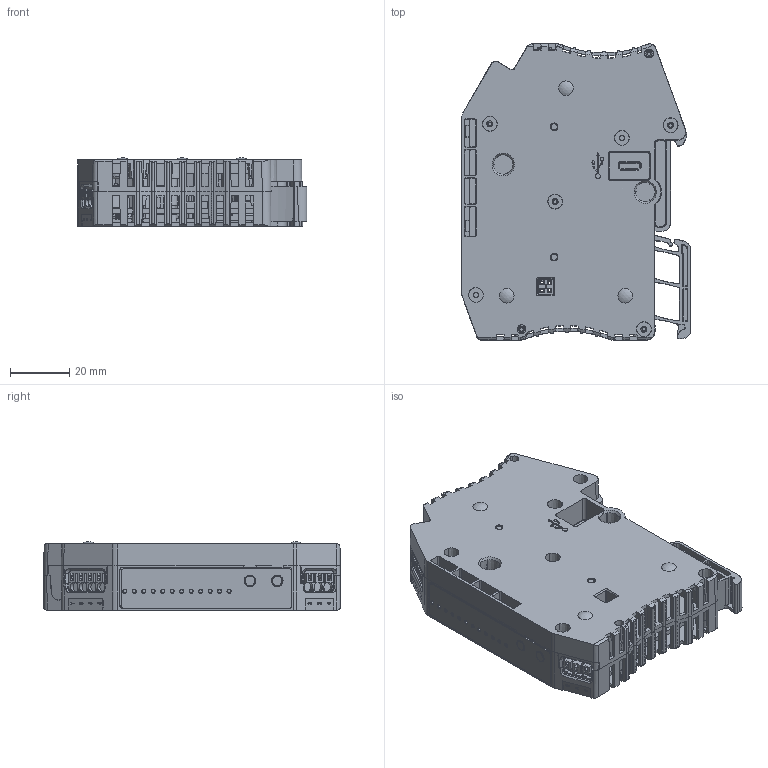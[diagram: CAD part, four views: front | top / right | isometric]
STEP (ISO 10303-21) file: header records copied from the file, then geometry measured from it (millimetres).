
FILE_DESCRIPTION(('Creo Elements/Direct Modeling STEP Export'),'2;1');
FILE_NAME('90.T7.99.000.0.stp','2021-04-01T 8:30:19',(''),(''),'Creo Elements/Direct Modeling STEP processor for AP214 (Solid Model)','Creo Elements/Direct Modeling 20.1 10-Mar-2018 (C) Parametric Technology GmbH','');
FILE_SCHEMA(('AUTOMOTIVE_DESIGN { 1 0 10303 214 1 1 1 1 }'));
Products named in the file (2): Black_Box_AI-P1A
Assembly tree (1 placements, depth 2):
  Black_Box_AI-P1A
    Black_Box_AI-P1A
Bounding box: 77.57 x 100.01 x 23.07 mm (x, y, z)
Volume: 40695.5 mm3; surface area: 65848.1 mm2
Topology: 1 solids, 1 shells, 3620 faces, 10529 edges, 6920 vertices
Faces by surface type: plane 2514, cylinder 575, cone 331, bspline 157, torus 35, extrusion 5, sphere 3
Entity records: 131664 total; most frequent: CARTESIAN_POINT 38875, ORIENTED_EDGE 21058, DIRECTION 16508, EDGE_CURVE 10529, VECTOR 7212, LINE 7207, VERTEX_POINT 6920, AXIS2_PLACEMENT_3D 4648
